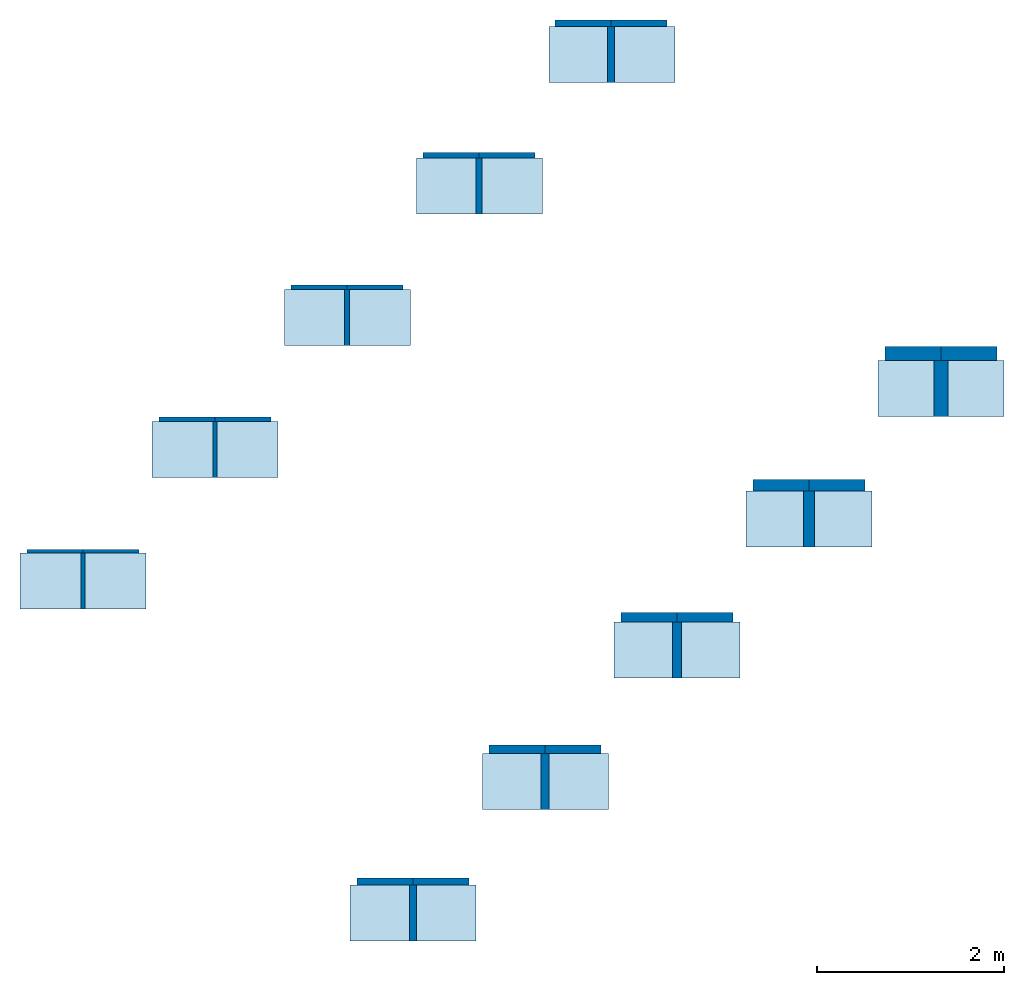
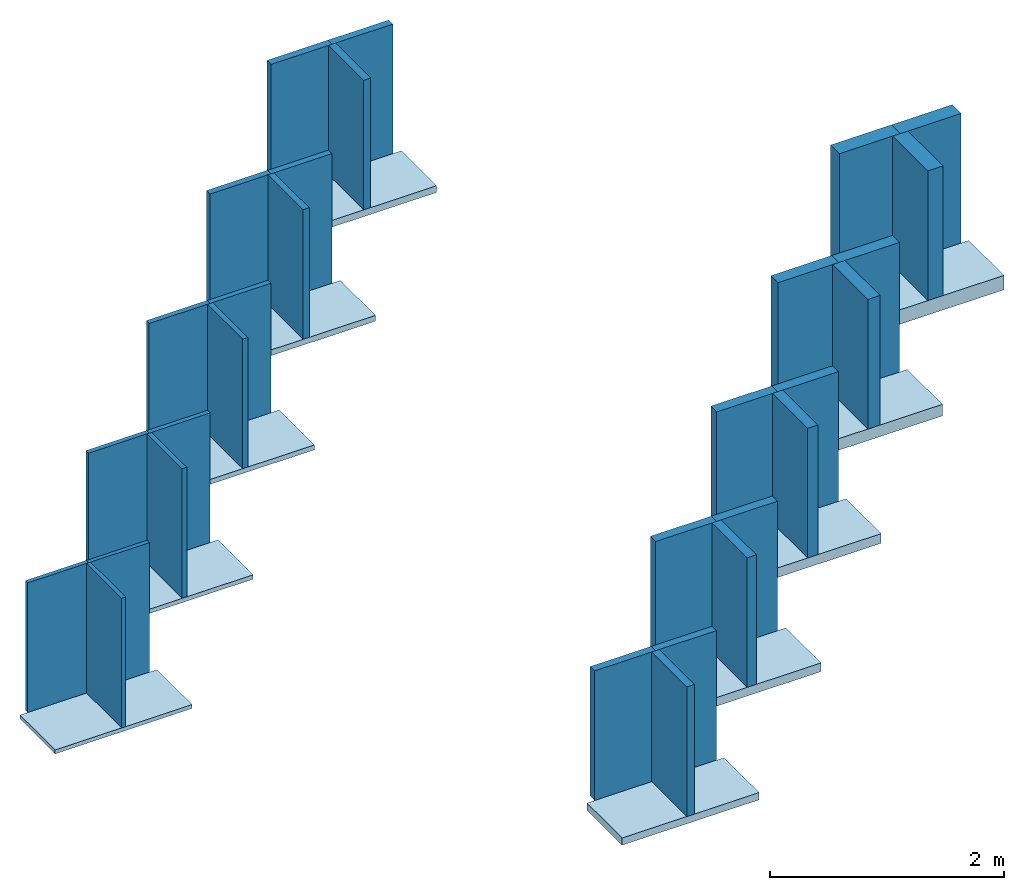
# One storey: 30 walls, 10 slabs.
"""IFC2X3 building model written with IfcOpenShell, lengths in millimetres."""

from ifc_helpers import new_model, entity, si_unit, converted_unit, derived_unit, direction, frame, frame_2d, origin, origin_2d_with_axis, place, context, subcontext, project, spatial, rectangle, extrude, material, layer, layer_set, layer_usage, type_object, element, save


model = new_model("IFC2X3")

# Units and contexts
model_context = context("Model", 3, precision=0.01, world=origin(), true_north=direction((6.12303176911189e-17, 1.0)))
context_of_model = context(None, 3, precision=0.01, world=origin(), true_north=direction((6.12303176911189e-17, 1.0)))
body_context = subcontext(model_context, "Body", "Model", "MODEL_VIEW")
ifc_project = project(units=[si_unit("LENGTHUNIT", "METRE", prefix="MILLI"), si_unit("AREAUNIT", "SQUARE_METRE"), si_unit("VOLUMEUNIT", "CUBIC_METRE"), converted_unit("PLANEANGLEUNIT", "DEGREE", entity("IfcRatioMeasure", 0.0174532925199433), si_unit("PLANEANGLEUNIT", "RADIAN"), dimensions=[0, 0, 0, 0, 0, 0, 0]), si_unit("MASSUNIT", "GRAM", prefix="KILO"), derived_unit("MASSDENSITYUNIT", [(si_unit("MASSUNIT", "GRAM", prefix="KILO"), 1), (si_unit("LENGTHUNIT", "METRE"), -3)]), derived_unit("MOMENTOFINERTIAUNIT", [(si_unit("LENGTHUNIT", "METRE"), 4)]), si_unit("TIMEUNIT", "SECOND"), si_unit("FREQUENCYUNIT", "HERTZ"), si_unit("THERMODYNAMICTEMPERATUREUNIT", "DEGREE_CELSIUS"), derived_unit("THERMALTRANSMITTANCEUNIT", [(si_unit("MASSUNIT", "GRAM", prefix="KILO"), 1), (si_unit("THERMODYNAMICTEMPERATUREUNIT", "KELVIN"), -1), (si_unit("TIMEUNIT", "SECOND"), -3)]), derived_unit("VOLUMETRICFLOWRATEUNIT", [(si_unit("LENGTHUNIT", "METRE"), 3), (si_unit("TIMEUNIT", "SECOND"), -1)]), si_unit("ELECTRICCURRENTUNIT", "AMPERE"), si_unit("ELECTRICVOLTAGEUNIT", "VOLT"), si_unit("POWERUNIT", "WATT"), si_unit("FORCEUNIT", "NEWTON", prefix="KILO"), si_unit("ILLUMINANCEUNIT", "LUX"), si_unit("LUMINOUSFLUXUNIT", "LUMEN"), si_unit("LUMINOUSINTENSITYUNIT", "CANDELA"), derived_unit("USERDEFINED", [(si_unit("MASSUNIT", "GRAM", prefix="KILO"), -1), (si_unit("LENGTHUNIT", "METRE"), -2), (si_unit("TIMEUNIT", "SECOND"), 3), (si_unit("LUMINOUSFLUXUNIT", "LUMEN"), 1)]), derived_unit("LINEARVELOCITYUNIT", [(si_unit("LENGTHUNIT", "METRE"), 1), (si_unit("TIMEUNIT", "SECOND"), -1)]), si_unit("PRESSUREUNIT", "PASCAL"), derived_unit("USERDEFINED", [(si_unit("LENGTHUNIT", "METRE"), -2), (si_unit("MASSUNIT", "GRAM", prefix="KILO"), 1), (si_unit("TIMEUNIT", "SECOND"), -2)]), derived_unit("LINEARFORCEUNIT", [(si_unit("MASSUNIT", "GRAM", prefix="KILO"), 1), (si_unit("LENGTHUNIT", "METRE"), 1), (si_unit("TIMEUNIT", "SECOND"), -2), (si_unit("LENGTHUNIT", "METRE"), -1)]), derived_unit("PLANARFORCEUNIT", [(si_unit("MASSUNIT", "GRAM", prefix="KILO"), 1), (si_unit("LENGTHUNIT", "METRE"), 1), (si_unit("TIMEUNIT", "SECOND"), -2), (si_unit("LENGTHUNIT", "METRE"), -2)])], contexts=[model_context, context_of_model])

# Site, building, storey
site_placement = place(None, origin())
site = spatial("IfcSite", under=ifc_project, at=site_placement, Name="Default", CompositionType="ELEMENT")
building_placement = place(site_placement, origin())
building = spatial("IfcBuilding", under=site, at=building_placement, CompositionType="ELEMENT")
storey_placement = place(building_placement, origin())
storey = spatial("IfcBuildingStorey", under=building, at=storey_placement, Name="Begane grond", CompositionType="ELEMENT", Elevation=0.0)

# Slabs
ifc_material = material(Name="Knauf Insulation_Ecose® glaswol Acoustifit")
ifc_layer_1 = layer(ifc_material, 40.0)
ifc_layer_set_1 = layer_set([ifc_layer_1], Name="Floor:NLRS_23_FL_Acoustifit_40x600x1350mm")
ifc_layer_usage_1 = layer_usage(ifc_layer_set_1, "AXIS3", "POSITIVE", 0.0)
slab_type_1 = type_object("IfcSlabType", Name="Floor:NLRS_23_FL_Acoustifit_40x600x1350mm", PredefinedType="FLOOR", material=ifc_layer_set_1)
slab_1_placement = place(storey_placement, origin())
element("IfcSlab", 1, at=slab_1_placement, inside=storey, type_object=slab_type_1, material=ifc_layer_usage_1, Name="Floor:NLRS_23_FL_Acoustifit_40x600x1350mm:3702", ObjectType="Floor:NLRS_23_FL_Acoustifit_40x600x1350mm", PredefinedType="FLOOR", context=body_context, shape_type="SweptSolid", body=[
    extrude(rectangle(XDim=599.999999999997, YDim=1350.0, at=frame_2d((1.4210854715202e-13, 0.0), x_axis=(1.0, 0.0))), frame((1103.11720698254, 2042.84289276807, 0.0), z_axis=(0.0, 0.0, -1.0), x_axis=(0.0, 1.0, 0.0)), (0.0, 0.0, 1.0), 40.0),
])
ifc_layer_2 = layer(ifc_material, 45.0)
ifc_layer_set_2 = layer_set([ifc_layer_2], Name="Floor:NLRS_23_FL_Acoustifit_45x600x1350mm")
ifc_layer_usage_2 = layer_usage(ifc_layer_set_2, "AXIS3", "POSITIVE", 0.0)
slab_type_2 = type_object("IfcSlabType", Name="Floor:NLRS_23_FL_Acoustifit_45x600x1350mm", PredefinedType="FLOOR", material=ifc_layer_set_2)
slab_2_placement = place(storey_placement, origin())
element("IfcSlab", 2, at=slab_2_placement, inside=storey, type_object=slab_type_2, material=ifc_layer_usage_2, Name="Floor:NLRS_23_FL_Acoustifit_45x600x1350mm:5869", ObjectType="Floor:NLRS_23_FL_Acoustifit_45x600x1350mm", PredefinedType="FLOOR", context=body_context, shape_type="SweptSolid", body=[
    extrude(rectangle(XDim=599.999999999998, YDim=1350.0, at=frame_2d((0.0, -1.13686837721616e-13), x_axis=(1.0, 0.0))), frame((2519.83076935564, 3454.55645514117, 0.0), z_axis=(0.0, 0.0, -1.0), x_axis=(0.0, 1.0, 0.0)), (0.0, 0.0, 1.0), 45.0),
])
ifc_layer_3 = layer(ifc_material, 50.0)
ifc_layer_set_3 = layer_set([ifc_layer_3], Name="Floor:NLRS_23_FL_Acoustifit_50x600x1350mm")
ifc_layer_usage_3 = layer_usage(ifc_layer_set_3, "AXIS3", "POSITIVE", 0.0)
slab_type_3 = type_object("IfcSlabType", Name="Floor:NLRS_23_FL_Acoustifit_50x600x1350mm", PredefinedType="FLOOR", material=ifc_layer_set_3)
slab_3_placement = place(storey_placement, origin())
element("IfcSlab", 3, at=slab_3_placement, inside=storey, type_object=slab_type_3, material=ifc_layer_usage_3, Name="Floor:NLRS_23_FL_Acoustifit_50x600x1350mm:5943", ObjectType="Floor:NLRS_23_FL_Acoustifit_50x600x1350mm", PredefinedType="FLOOR", context=body_context, shape_type="SweptSolid", body=[
    extrude(rectangle(XDim=599.999999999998, YDim=1350.0, at=frame_2d((0.0, 5.6843418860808e-13), x_axis=(1.0, 0.0))), frame((3936.54433172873, 4866.27001751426, 0.0), z_axis=(0.0, 0.0, -1.0), x_axis=(0.0, 1.0, 0.0)), (0.0, 0.0, 1.0), 50.0),
])
ifc_layer_4 = layer(ifc_material, 60.0)
ifc_layer_set_4 = layer_set([ifc_layer_4], Name="Floor:NLRS_23_FL_Acoustifit_60x600x1350mm")
ifc_layer_usage_4 = layer_usage(ifc_layer_set_4, "AXIS3", "POSITIVE", 0.0)
slab_type_4 = type_object("IfcSlabType", Name="Floor:NLRS_23_FL_Acoustifit_60x600x1350mm", PredefinedType="FLOOR", material=ifc_layer_set_4)
slab_4_placement = place(storey_placement, origin())
element("IfcSlab", 4, at=slab_4_placement, inside=storey, type_object=slab_type_4, material=ifc_layer_usage_4, Name="Floor:NLRS_23_FL_Acoustifit_60x600x1350mm:5952", ObjectType="Floor:NLRS_23_FL_Acoustifit_60x600x1350mm", PredefinedType="FLOOR", context=body_context, shape_type="SweptSolid", body=[
    extrude(rectangle(XDim=599.999999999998, YDim=1350.0, at=origin_2d_with_axis()), frame((5353.25789410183, 6275.48357988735, 0.0), z_axis=(0.0, 0.0, -1.0), x_axis=(0.0, 1.0, 0.0)), (0.0, 0.0, 1.0), 60.0),
])
ifc_layer_5 = layer(ifc_material, 70.0)
ifc_layer_set_5 = layer_set([ifc_layer_5], Name="Floor:NLRS_23_FL_Acoustifit_70x600x1350mm")
ifc_layer_usage_5 = layer_usage(ifc_layer_set_5, "AXIS3", "POSITIVE", 0.0)
slab_type_5 = type_object("IfcSlabType", Name="Floor:NLRS_23_FL_Acoustifit_70x600x1350mm", PredefinedType="FLOOR", material=ifc_layer_set_5)
slab_5_placement = place(storey_placement, origin())
element("IfcSlab", 5, at=slab_5_placement, inside=storey, type_object=slab_type_5, material=ifc_layer_usage_5, Name="Floor:NLRS_23_FL_Acoustifit_70x600x1350mm:5961", ObjectType="Floor:NLRS_23_FL_Acoustifit_70x600x1350mm", PredefinedType="FLOOR", context=body_context, shape_type="SweptSolid", body=[
    extrude(rectangle(XDim=599.999999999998, YDim=1350.0, at=frame_2d((0.0, 5.6843418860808e-13), x_axis=(1.0, 0.0))), frame((6769.97145647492, 7684.69714226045, 0.0), z_axis=(0.0, 0.0, -1.0), x_axis=(0.0, 1.0, 0.0)), (0.0, 0.0, 1.0), 70.0),
])
ifc_layer_6 = layer(ifc_material, 75.0)
ifc_layer_set_6 = layer_set([ifc_layer_6], Name="Floor:NLRS_23_FL_Acoustifit_75x600x1350mm")
ifc_layer_usage_6 = layer_usage(ifc_layer_set_6, "AXIS3", "POSITIVE", 0.0)
slab_type_6 = type_object("IfcSlabType", Name="Floor:NLRS_23_FL_Acoustifit_75x600x1350mm", PredefinedType="FLOOR", material=ifc_layer_set_6)
slab_6_placement = place(storey_placement, origin())
element("IfcSlab", 6, at=slab_6_placement, inside=storey, type_object=slab_type_6, material=ifc_layer_usage_6, Name="Floor:NLRS_23_FL_Acoustifit_75x600x1350mm:6406", ObjectType="Floor:NLRS_23_FL_Acoustifit_75x600x1350mm", PredefinedType="FLOOR", context=body_context, shape_type="SweptSolid", body=[
    extrude(rectangle(XDim=599.999999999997, YDim=1350.0, at=frame_2d((-1.4210854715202e-13, 0.0), x_axis=(1.0, 0.0))), frame((4638.65111291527, -1510.19101316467, 0.0), z_axis=(0.0, 0.0, -1.0), x_axis=(0.0, 1.0, 0.0)), (0.0, 0.0, 1.0), 75.0),
])
ifc_layer_7 = layer(ifc_material, 90.0)
ifc_layer_set_7 = layer_set([ifc_layer_7], Name="Floor:NLRS_23_FL_Acoustifit_90x600x1350mm")
ifc_layer_usage_7 = layer_usage(ifc_layer_set_7, "AXIS3", "POSITIVE", 0.0)
slab_type_7 = type_object("IfcSlabType", Name="Floor:NLRS_23_FL_Acoustifit_90x600x1350mm", PredefinedType="FLOOR", material=ifc_layer_set_7)
slab_7_placement = place(storey_placement, origin())
element("IfcSlab", 7, at=slab_7_placement, inside=storey, type_object=slab_type_7, material=ifc_layer_usage_7, Name="Floor:NLRS_23_FL_Acoustifit_90x600x1350mm:6471", ObjectType="Floor:NLRS_23_FL_Acoustifit_90x600x1350mm", PredefinedType="FLOOR", context=body_context, shape_type="SweptSolid", body=[
    extrude(rectangle(XDim=599.999999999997, YDim=1350.0, at=frame_2d((2.8421709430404e-14, 0.0), x_axis=(1.0, 0.0))), frame((6060.36467528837, -103.477450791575, 0.0), z_axis=(0.0, 0.0, -1.0), x_axis=(0.0, 1.0, 0.0)), (0.0, 0.0, 1.0), 90.0),
])
ifc_layer_8 = layer(ifc_material, 100.0)
ifc_layer_set_8 = layer_set([ifc_layer_8], Name="Floor:NLRS_23_FL_Acoustifit_100x600x1350mm")
ifc_layer_usage_8 = layer_usage(ifc_layer_set_8, "AXIS3", "POSITIVE", 0.0)
slab_type_8 = type_object("IfcSlabType", Name="Floor:NLRS_23_FL_Acoustifit_100x600x1350mm", PredefinedType="FLOOR", material=ifc_layer_set_8)
slab_8_placement = place(storey_placement, origin())
element("IfcSlab", 8, at=slab_8_placement, inside=storey, type_object=slab_type_8, material=ifc_layer_usage_8, Name="Floor:NLRS_23_FL_Acoustifit_100x600x1350mm:6533", ObjectType="Floor:NLRS_23_FL_Acoustifit_100x600x1350mm", PredefinedType="FLOOR", context=body_context, shape_type="SweptSolid", body=[
    extrude(rectangle(XDim=599.999999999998, YDim=1350.0, at=frame_2d((0.0, 1.13686837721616e-12), x_axis=(1.0, 0.0))), frame((7467.07823766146, 1305.73611158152, 0.0), z_axis=(0.0, 0.0, -1.0), x_axis=(0.0, 1.0, 0.0)), (0.0, 0.0, 1.0), 100.0),
])
ifc_layer_9 = layer(ifc_material, 120.0)
ifc_layer_set_9 = layer_set([ifc_layer_9], Name="Floor:NLRS_23_FL_Acoustifit_120x600x1350mm")
ifc_layer_usage_9 = layer_usage(ifc_layer_set_9, "AXIS3", "POSITIVE", 0.0)
slab_type_9 = type_object("IfcSlabType", Name="Floor:NLRS_23_FL_Acoustifit_120x600x1350mm", PredefinedType="FLOOR", material=ifc_layer_set_9)
slab_9_placement = place(storey_placement, origin())
element("IfcSlab", 9, at=slab_9_placement, inside=storey, type_object=slab_type_9, material=ifc_layer_usage_9, Name="Floor:NLRS_23_FL_Acoustifit_120x600x1350mm:6542", ObjectType="Floor:NLRS_23_FL_Acoustifit_120x600x1350mm", PredefinedType="FLOOR", context=body_context, shape_type="SweptSolid", body=[
    extrude(rectangle(XDim=599.999999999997, YDim=1350.0, at=origin_2d_with_axis()), frame((8881.29180003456, 2709.94967395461, 0.0), z_axis=(0.0, 0.0, -1.0), x_axis=(0.0, 1.0, 0.0)), (0.0, 0.0, 1.0), 120.0),
])
ifc_layer_10 = layer(ifc_material, 150.0)
ifc_layer_set_10 = layer_set([ifc_layer_10], Name="Floor:NLRS_23_FL_Acoustifit_150x600x1350mm")
ifc_layer_usage_10 = layer_usage(ifc_layer_set_10, "AXIS3", "POSITIVE", 0.0)
slab_type_10 = type_object("IfcSlabType", Name="Floor:NLRS_23_FL_Acoustifit_150x600x1350mm", PredefinedType="FLOOR", material=ifc_layer_set_10)
slab_10_placement = place(storey_placement, origin())
element("IfcSlab", 10, at=slab_10_placement, inside=storey, type_object=slab_type_10, material=ifc_layer_usage_10, Name="Floor:NLRS_23_FL_Acoustifit_150x600x1350mm:6551", ObjectType="Floor:NLRS_23_FL_Acoustifit_150x600x1350mm", PredefinedType="FLOOR", context=body_context, shape_type="SweptSolid", body=[
    extrude(rectangle(XDim=599.999999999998, YDim=1350.0, at=frame_2d((0.0, 1.08002495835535e-12), x_axis=(1.0, 0.0))), frame((10295.5053624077, 4109.1632363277, 0.0), z_axis=(0.0, 0.0, -1.0), x_axis=(0.0, 1.0, 0.0)), (0.0, 0.0, 1.0), 150.0),
])

# Walls
ifc_layer_11 = layer(ifc_material, 40.0)
ifc_layer_set_11 = layer_set([ifc_layer_11], Name="Basic Wall:NLRS_21_WA__Acoustifit_40x600x1350mm")
ifc_layer_usage_11 = layer_usage(ifc_layer_set_11, "AXIS2", "NEGATIVE", 20.0)
wall_type_1 = type_object("IfcWallType", Name="Basic Wall:NLRS_21_WA__Acoustifit_40x600x1350mm", PredefinedType="STANDARD", material=ifc_layer_set_11)
wall_1_placement = place(storey_placement, frame((503.117206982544, 2362.84289276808, 0.0)))
element("IfcWallStandardCase", 11, at=wall_1_placement, inside=storey, type_object=wall_type_1, material=ifc_layer_usage_11, Name="Basic Wall:NLRS_21_WA__Acoustifit_40x600x1350mm:2453", ObjectType="Basic Wall:NLRS_21_WA__Acoustifit_40x600x1350mm", context=body_context, shape_type="SweptSolid", body=[
    extrude(rectangle(XDim=600.0, YDim=40.0000000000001, at=frame_2d((300.0, 0.0), x_axis=(-1.0, 0.0))), origin(), (0.0, 0.0, 1.0), 1350.0),
])
ifc_layer_usage_12 = layer_usage(ifc_layer_set_11, "AXIS2", "NEGATIVE", 20.0)
wall_2_placement = place(storey_placement, frame((1103.11720698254, 2342.84289276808, 0.0), z_axis=(0.0, 0.0, 1.0), x_axis=(0.0, -1.0, 0.0)))
element("IfcWallStandardCase", 12, at=wall_2_placement, inside=storey, type_object=wall_type_1, material=ifc_layer_usage_12, Name="Basic Wall:NLRS_21_WA__Acoustifit_40x600x1350mm:2588", ObjectType="Basic Wall:NLRS_21_WA__Acoustifit_40x600x1350mm", context=body_context, shape_type="SweptSolid", body=[
    extrude(rectangle(XDim=600.0, YDim=40.0000000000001, at=frame_2d((300.0, -1.4210854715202e-14), x_axis=(-1.0, 0.0))), origin(), (0.0, 0.0, 1.0), 1350.0),
])
ifc_layer_usage_13 = layer_usage(ifc_layer_set_11, "AXIS2", "NEGATIVE", 20.0)
wall_3_placement = place(storey_placement, frame((1103.11720698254, 2362.84289276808, 0.0)))
element("IfcWallStandardCase", 13, at=wall_3_placement, inside=storey, type_object=wall_type_1, material=ifc_layer_usage_13, Name="Basic Wall:NLRS_21_WA__Acoustifit_40x600x1350mm:4073", ObjectType="Basic Wall:NLRS_21_WA__Acoustifit_40x600x1350mm", context=body_context, shape_type="SweptSolid", body=[
    extrude(rectangle(XDim=600.0, YDim=40.0000000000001, at=frame_2d((300.0, 0.0), x_axis=(-1.0, 0.0))), origin(), (0.0, 0.0, 1.0), 1350.0),
])
ifc_layer_12 = layer(ifc_material, 45.0)
ifc_layer_set_12 = layer_set([ifc_layer_12], Name="Basic Wall:NLRS_21_WA__Acoustifit_45x600x1350mm")
ifc_layer_usage_14 = layer_usage(ifc_layer_set_12, "AXIS2", "NEGATIVE", 22.5)
wall_type_2 = type_object("IfcWallType", Name="Basic Wall:NLRS_21_WA__Acoustifit_45x600x1350mm", PredefinedType="STANDARD", material=ifc_layer_set_12)
wall_4_placement = place(storey_placement, frame((1917.33076935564, 3777.05645514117, 0.0)))
element("IfcWallStandardCase", 14, at=wall_4_placement, inside=storey, type_object=wall_type_2, material=ifc_layer_usage_14, Name="Basic Wall:NLRS_21_WA__Acoustifit_45x600x1350mm:4397", ObjectType="Basic Wall:NLRS_21_WA__Acoustifit_45x600x1350mm", context=body_context, shape_type="SweptSolid", body=[
    extrude(rectangle(XDim=600.0, YDim=44.9999999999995, at=frame_2d((300.0, -1.35003119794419e-13), x_axis=(-1.0, 0.0))), origin(), (0.0, 0.0, 1.0), 1350.0),
])
ifc_layer_usage_15 = layer_usage(ifc_layer_set_12, "AXIS2", "NEGATIVE", 22.5)
wall_5_placement = place(storey_placement, frame((2517.33076935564, 3754.55645514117, 0.0), z_axis=(0.0, 0.0, 1.0), x_axis=(0.0, -1.0, 0.0)))
element("IfcWallStandardCase", 15, at=wall_5_placement, inside=storey, type_object=wall_type_2, material=ifc_layer_usage_15, Name="Basic Wall:NLRS_21_WA__Acoustifit_45x600x1350mm:4398", ObjectType="Basic Wall:NLRS_21_WA__Acoustifit_45x600x1350mm", context=body_context, shape_type="SweptSolid", body=[
    extrude(rectangle(XDim=600.0, YDim=44.9999999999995, at=frame_2d((300.0, -6.75015598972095e-14), x_axis=(-1.0, 0.0))), origin(), (0.0, 0.0, 1.0), 1350.0),
])
ifc_layer_usage_16 = layer_usage(ifc_layer_set_12, "AXIS2", "NEGATIVE", 22.5)
wall_6_placement = place(storey_placement, frame((2517.33076935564, 3777.05645514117, 0.0)))
element("IfcWallStandardCase", 16, at=wall_6_placement, inside=storey, type_object=wall_type_2, material=ifc_layer_usage_16, Name="Basic Wall:NLRS_21_WA__Acoustifit_45x600x1350mm:4400", ObjectType="Basic Wall:NLRS_21_WA__Acoustifit_45x600x1350mm", context=body_context, shape_type="SweptSolid", body=[
    extrude(rectangle(XDim=600.0, YDim=44.9999999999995, at=frame_2d((300.0, -1.35003119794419e-13), x_axis=(-1.0, 0.0))), origin(), (0.0, 0.0, 1.0), 1350.0),
])
ifc_layer_13 = layer(ifc_material, 50.0)
ifc_layer_set_13 = layer_set([ifc_layer_13], Name="Basic Wall:NLRS_21_WA__Acoustifit_50x600x1350mm")
ifc_layer_usage_17 = layer_usage(ifc_layer_set_13, "AXIS2", "NEGATIVE", 25.0)
wall_type_3 = type_object("IfcWallType", Name="Basic Wall:NLRS_21_WA__Acoustifit_50x600x1350mm", PredefinedType="STANDARD", material=ifc_layer_set_13)
wall_7_placement = place(storey_placement, frame((3331.54433172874, 5191.27001751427, 0.0)))
element("IfcWallStandardCase", 17, at=wall_7_placement, inside=storey, type_object=wall_type_3, material=ifc_layer_usage_17, Name="Basic Wall:NLRS_21_WA__Acoustifit_50x600x1350mm:4441", ObjectType="Basic Wall:NLRS_21_WA__Acoustifit_50x600x1350mm", context=body_context, shape_type="SweptSolid", body=[
    extrude(rectangle(XDim=600.0, YDim=49.9999999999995, at=frame_2d((300.0, -1.35003119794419e-13), x_axis=(-1.0, 0.0))), origin(), (0.0, 0.0, 1.0), 1350.0),
])
ifc_layer_usage_18 = layer_usage(ifc_layer_set_13, "AXIS2", "NEGATIVE", 25.0)
wall_8_placement = place(storey_placement, frame((3931.54433172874, 5166.27001751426, 0.0), z_axis=(0.0, 0.0, 1.0), x_axis=(0.0, -1.0, 0.0)))
element("IfcWallStandardCase", 18, at=wall_8_placement, inside=storey, type_object=wall_type_3, material=ifc_layer_usage_18, Name="Basic Wall:NLRS_21_WA__Acoustifit_50x600x1350mm:4442", ObjectType="Basic Wall:NLRS_21_WA__Acoustifit_50x600x1350mm", context=body_context, shape_type="SweptSolid", body=[
    extrude(rectangle(XDim=600.0, YDim=50.0000000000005, at=frame_2d((300.0, -6.75015598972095e-14), x_axis=(-1.0, 0.0))), origin(), (0.0, 0.0, 1.0), 1350.0),
])
ifc_layer_usage_19 = layer_usage(ifc_layer_set_13, "AXIS2", "NEGATIVE", 25.0)
wall_9_placement = place(storey_placement, frame((3931.54433172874, 5191.27001751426, 0.0)))
element("IfcWallStandardCase", 19, at=wall_9_placement, inside=storey, type_object=wall_type_3, material=ifc_layer_usage_19, Name="Basic Wall:NLRS_21_WA__Acoustifit_50x600x1350mm:4443", ObjectType="Basic Wall:NLRS_21_WA__Acoustifit_50x600x1350mm", context=body_context, shape_type="SweptSolid", body=[
    extrude(rectangle(XDim=600.0, YDim=49.9999999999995, at=frame_2d((300.0, -1.35003119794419e-13), x_axis=(-1.0, 0.0))), origin(), (0.0, 0.0, 1.0), 1350.0),
])
ifc_layer_14 = layer(ifc_material, 60.0)
ifc_layer_set_14 = layer_set([ifc_layer_14], Name="Basic Wall:NLRS_21_WA__Acoustifit_60x600x1350mm")
ifc_layer_usage_20 = layer_usage(ifc_layer_set_14, "AXIS2", "NEGATIVE", 30.0)
wall_type_4 = type_object("IfcWallType", Name="Basic Wall:NLRS_21_WA__Acoustifit_60x600x1350mm", PredefinedType="STANDARD", material=ifc_layer_set_14)
wall_10_placement = place(storey_placement, frame((4745.75789410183, 6605.48357988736, 0.0)))
element("IfcWallStandardCase", 20, at=wall_10_placement, inside=storey, type_object=wall_type_4, material=ifc_layer_usage_20, Name="Basic Wall:NLRS_21_WA__Acoustifit_60x600x1350mm:4592", ObjectType="Basic Wall:NLRS_21_WA__Acoustifit_60x600x1350mm", context=body_context, shape_type="SweptSolid", body=[
    extrude(rectangle(XDim=600.0, YDim=59.9999999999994, at=frame_2d((300.0, -1.35003119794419e-13), x_axis=(-1.0, 0.0))), origin(), (0.0, 0.0, 1.0), 1350.0),
])
ifc_layer_usage_21 = layer_usage(ifc_layer_set_14, "AXIS2", "NEGATIVE", 30.0)
wall_11_placement = place(storey_placement, frame((5345.75789410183, 6575.48357988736, 0.0), z_axis=(0.0, 0.0, 1.0), x_axis=(0.0, -1.0, 0.0)))
element("IfcWallStandardCase", 21, at=wall_11_placement, inside=storey, type_object=wall_type_4, material=ifc_layer_usage_21, Name="Basic Wall:NLRS_21_WA__Acoustifit_60x600x1350mm:4593", ObjectType="Basic Wall:NLRS_21_WA__Acoustifit_60x600x1350mm", context=body_context, shape_type="SweptSolid", body=[
    extrude(rectangle(XDim=600.0, YDim=59.9999999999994, at=frame_2d((300.0, -6.75015598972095e-14), x_axis=(-1.0, 0.0))), origin(), (0.0, 0.0, 1.0), 1350.0),
])
ifc_layer_usage_22 = layer_usage(ifc_layer_set_14, "AXIS2", "NEGATIVE", 30.0)
wall_12_placement = place(storey_placement, frame((5345.75789410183, 6605.48357988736, 0.0)))
element("IfcWallStandardCase", 22, at=wall_12_placement, inside=storey, type_object=wall_type_4, material=ifc_layer_usage_22, Name="Basic Wall:NLRS_21_WA__Acoustifit_60x600x1350mm:4594", ObjectType="Basic Wall:NLRS_21_WA__Acoustifit_60x600x1350mm", context=body_context, shape_type="SweptSolid", body=[
    extrude(rectangle(XDim=599.999999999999, YDim=59.9999999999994, at=frame_2d((299.999999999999, -1.35003119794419e-13), x_axis=(-1.0, 0.0))), origin(), (0.0, 0.0, 1.0), 1350.0),
])
ifc_layer_15 = layer(ifc_material, 70.0)
ifc_layer_set_15 = layer_set([ifc_layer_15], Name="Basic Wall:NLRS_21_WA__Acoustifit_70x600x1350mm")
ifc_layer_usage_23 = layer_usage(ifc_layer_set_15, "AXIS2", "NEGATIVE", 35.0)
wall_type_5 = type_object("IfcWallType", Name="Basic Wall:NLRS_21_WA__Acoustifit_70x600x1350mm", PredefinedType="STANDARD", material=ifc_layer_set_15)
wall_13_placement = place(storey_placement, frame((6159.97145647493, 8019.69714226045, 0.0)))
element("IfcWallStandardCase", 23, at=wall_13_placement, inside=storey, type_object=wall_type_5, material=ifc_layer_usage_23, Name="Basic Wall:NLRS_21_WA__Acoustifit_70x600x1350mm:4655", ObjectType="Basic Wall:NLRS_21_WA__Acoustifit_70x600x1350mm", context=body_context, shape_type="SweptSolid", body=[
    extrude(rectangle(XDim=599.999999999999, YDim=69.9999999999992, at=frame_2d((299.999999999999, -1.35003119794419e-13), x_axis=(-1.0, 0.0))), origin(), (0.0, 0.0, 1.0), 1350.0),
])
ifc_layer_usage_24 = layer_usage(ifc_layer_set_15, "AXIS2", "NEGATIVE", 35.0)
wall_14_placement = place(storey_placement, frame((6759.97145647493, 7984.69714226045, 0.0), z_axis=(0.0, 0.0, 1.0), x_axis=(0.0, -1.0, 0.0)))
element("IfcWallStandardCase", 24, at=wall_14_placement, inside=storey, type_object=wall_type_5, material=ifc_layer_usage_24, Name="Basic Wall:NLRS_21_WA__Acoustifit_70x600x1350mm:4656", ObjectType="Basic Wall:NLRS_21_WA__Acoustifit_70x600x1350mm", context=body_context, shape_type="SweptSolid", body=[
    extrude(rectangle(XDim=600.0, YDim=69.9999999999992, at=frame_2d((300.0, -6.75015598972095e-14), x_axis=(-1.0, 0.0))), origin(), (0.0, 0.0, 1.0), 1350.0),
])
ifc_layer_usage_25 = layer_usage(ifc_layer_set_15, "AXIS2", "NEGATIVE", 35.0)
wall_15_placement = place(storey_placement, frame((6759.97145647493, 8019.69714226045, 0.0)))
element("IfcWallStandardCase", 25, at=wall_15_placement, inside=storey, type_object=wall_type_5, material=ifc_layer_usage_25, Name="Basic Wall:NLRS_21_WA__Acoustifit_70x600x1350mm:4657", ObjectType="Basic Wall:NLRS_21_WA__Acoustifit_70x600x1350mm", context=body_context, shape_type="SweptSolid", body=[
    extrude(rectangle(XDim=599.999999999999, YDim=69.9999999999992, at=frame_2d((299.999999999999, -1.35003119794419e-13), x_axis=(-1.0, 0.0))), origin(), (0.0, 0.0, 1.0), 1350.0),
])
ifc_layer_16 = layer(ifc_material, 75.0)
ifc_layer_set_16 = layer_set([ifc_layer_16], Name="Basic Wall:NLRS_21_WA__Acoustifit_75x600x1350mm")
ifc_layer_usage_26 = layer_usage(ifc_layer_set_16, "AXIS2", "NEGATIVE", 37.5)
wall_type_6 = type_object("IfcWallType", Name="Basic Wall:NLRS_21_WA__Acoustifit_75x600x1350mm", PredefinedType="STANDARD", material=ifc_layer_set_16)
wall_16_placement = place(storey_placement, frame((4038.65111291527, -1172.69101316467, 0.0)))
element("IfcWallStandardCase", 26, at=wall_16_placement, inside=storey, type_object=wall_type_6, material=ifc_layer_usage_26, Name="Basic Wall:NLRS_21_WA__Acoustifit_75x600x1350mm:4721", ObjectType="Basic Wall:NLRS_21_WA__Acoustifit_75x600x1350mm", context=body_context, shape_type="SweptSolid", body=[
    extrude(rectangle(XDim=599.999999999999, YDim=75.0, at=frame_2d((300.0, 0.0), x_axis=(-1.0, 0.0))), origin(), (0.0, 0.0, 1.0), 1350.0),
])
ifc_layer_usage_27 = layer_usage(ifc_layer_set_16, "AXIS2", "NEGATIVE", 37.5)
wall_17_placement = place(storey_placement, frame((4638.65111291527, -1210.19101316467, 0.0), z_axis=(0.0, 0.0, 1.0), x_axis=(0.0, -1.0, 0.0)))
element("IfcWallStandardCase", 27, at=wall_17_placement, inside=storey, type_object=wall_type_6, material=ifc_layer_usage_27, Name="Basic Wall:NLRS_21_WA__Acoustifit_75x600x1350mm:4722", ObjectType="Basic Wall:NLRS_21_WA__Acoustifit_75x600x1350mm", context=body_context, shape_type="SweptSolid", body=[
    extrude(rectangle(XDim=600.0, YDim=75.0000000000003, at=frame_2d((300.0, -6.75015598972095e-14), x_axis=(-1.0, 0.0))), origin(), (0.0, 0.0, 1.0), 1350.0),
])
ifc_layer_usage_28 = layer_usage(ifc_layer_set_16, "AXIS2", "NEGATIVE", 37.5)
wall_18_placement = place(storey_placement, frame((4638.65111291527, -1172.69101316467, 0.0)))
element("IfcWallStandardCase", 28, at=wall_18_placement, inside=storey, type_object=wall_type_6, material=ifc_layer_usage_28, Name="Basic Wall:NLRS_21_WA__Acoustifit_75x600x1350mm:4724", ObjectType="Basic Wall:NLRS_21_WA__Acoustifit_75x600x1350mm", context=body_context, shape_type="SweptSolid", body=[
    extrude(rectangle(XDim=600.0, YDim=75.0, at=frame_2d((300.0, 0.0), x_axis=(-1.0, 0.0))), origin(), (0.0, 0.0, 1.0), 1350.0),
])
ifc_layer_17 = layer(ifc_material, 90.0)
ifc_layer_set_17 = layer_set([ifc_layer_17], Name="Basic Wall:NLRS_21_WA__Acoustifit_90x600x1350mm")
ifc_layer_usage_29 = layer_usage(ifc_layer_set_17, "AXIS2", "NEGATIVE", 45.0)
wall_type_7 = type_object("IfcWallType", Name="Basic Wall:NLRS_21_WA__Acoustifit_90x600x1350mm", PredefinedType="STANDARD", material=ifc_layer_set_17)
wall_19_placement = place(storey_placement, frame((5452.86467528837, 241.522549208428, 0.0)))
element("IfcWallStandardCase", 29, at=wall_19_placement, inside=storey, type_object=wall_type_7, material=ifc_layer_usage_29, Name="Basic Wall:NLRS_21_WA__Acoustifit_90x600x1350mm:4725", ObjectType="Basic Wall:NLRS_21_WA__Acoustifit_90x600x1350mm", context=body_context, shape_type="SweptSolid", body=[
    extrude(rectangle(XDim=599.999999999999, YDim=90.0, at=frame_2d((299.999999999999, 0.0), x_axis=(-1.0, 0.0))), origin(), (0.0, 0.0, 1.0), 1350.0),
])
ifc_layer_usage_30 = layer_usage(ifc_layer_set_17, "AXIS2", "NEGATIVE", 45.0)
wall_20_placement = place(storey_placement, frame((6052.86467528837, 196.522549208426, 0.0), z_axis=(0.0, 0.0, 1.0), x_axis=(0.0, -1.0, 0.0)))
element("IfcWallStandardCase", 30, at=wall_20_placement, inside=storey, type_object=wall_type_7, material=ifc_layer_usage_30, Name="Basic Wall:NLRS_21_WA__Acoustifit_90x600x1350mm:4726", ObjectType="Basic Wall:NLRS_21_WA__Acoustifit_90x600x1350mm", context=body_context, shape_type="SweptSolid", body=[
    extrude(rectangle(XDim=600.0, YDim=89.999999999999, at=frame_2d((300.0, -6.75015598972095e-14), x_axis=(-1.0, 0.0))), origin(), (0.0, 0.0, 1.0), 1350.0),
])
ifc_layer_usage_31 = layer_usage(ifc_layer_set_17, "AXIS2", "NEGATIVE", 45.0)
wall_21_placement = place(storey_placement, frame((6052.86467528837, 241.522549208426, 0.0)))
element("IfcWallStandardCase", 31, at=wall_21_placement, inside=storey, type_object=wall_type_7, material=ifc_layer_usage_31, Name="Basic Wall:NLRS_21_WA__Acoustifit_90x600x1350mm:4727", ObjectType="Basic Wall:NLRS_21_WA__Acoustifit_90x600x1350mm", context=body_context, shape_type="SweptSolid", body=[
    extrude(rectangle(XDim=599.999999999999, YDim=90.0, at=frame_2d((299.999999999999, 0.0), x_axis=(-1.0, 0.0))), origin(), (0.0, 0.0, 1.0), 1350.0),
])
ifc_layer_18 = layer(ifc_material, 100.0)
ifc_layer_set_18 = layer_set([ifc_layer_18], Name="Basic Wall:NLRS_21_WA__Acoustifit_100x600x1350mm")
ifc_layer_usage_32 = layer_usage(ifc_layer_set_18, "AXIS2", "NEGATIVE", 50.0)
wall_type_8 = type_object("IfcWallType", Name="Basic Wall:NLRS_21_WA__Acoustifit_100x600x1350mm", PredefinedType="STANDARD", material=ifc_layer_set_18)
wall_22_placement = place(storey_placement, frame((6867.07823766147, 1655.73611158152, 0.0)))
element("IfcWallStandardCase", 32, at=wall_22_placement, inside=storey, type_object=wall_type_8, material=ifc_layer_usage_32, Name="Basic Wall:NLRS_21_WA__Acoustifit_100x600x1350mm:4728", ObjectType="Basic Wall:NLRS_21_WA__Acoustifit_100x600x1350mm", context=body_context, shape_type="SweptSolid", body=[
    extrude(rectangle(XDim=599.999999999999, YDim=100.0, at=frame_2d((299.999999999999, 0.0), x_axis=(-1.0, 0.0))), origin(), (0.0, 0.0, 1.0), 1350.0),
])
ifc_layer_usage_33 = layer_usage(ifc_layer_set_18, "AXIS2", "NEGATIVE", 50.0)
wall_23_placement = place(storey_placement, frame((7467.07823766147, 1605.73611158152, 0.0), z_axis=(0.0, 0.0, 1.0), x_axis=(0.0, -1.0, 0.0)))
element("IfcWallStandardCase", 33, at=wall_23_placement, inside=storey, type_object=wall_type_8, material=ifc_layer_usage_33, Name="Basic Wall:NLRS_21_WA__Acoustifit_100x600x1350mm:4729", ObjectType="Basic Wall:NLRS_21_WA__Acoustifit_100x600x1350mm", context=body_context, shape_type="SweptSolid", body=[
    extrude(rectangle(XDim=600.0, YDim=99.9999999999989, at=frame_2d((300.0, -6.75015598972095e-14), x_axis=(-1.0, 0.0))), origin(), (0.0, 0.0, 1.0), 1350.0),
])
ifc_layer_usage_34 = layer_usage(ifc_layer_set_18, "AXIS2", "NEGATIVE", 50.0)
wall_24_placement = place(storey_placement, frame((7467.07823766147, 1655.73611158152, 0.0)))
element("IfcWallStandardCase", 34, at=wall_24_placement, inside=storey, type_object=wall_type_8, material=ifc_layer_usage_34, Name="Basic Wall:NLRS_21_WA__Acoustifit_100x600x1350mm:4730", ObjectType="Basic Wall:NLRS_21_WA__Acoustifit_100x600x1350mm", context=body_context, shape_type="SweptSolid", body=[
    extrude(rectangle(XDim=599.999999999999, YDim=100.0, at=frame_2d((299.999999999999, 0.0), x_axis=(-1.0, 0.0))), origin(), (0.0, 0.0, 1.0), 1350.0),
])
ifc_layer_19 = layer(ifc_material, 120.0)
ifc_layer_set_19 = layer_set([ifc_layer_19], Name="Basic Wall:NLRS_21_WA__Acoustifit_120x600x1350mm")
ifc_layer_usage_35 = layer_usage(ifc_layer_set_19, "AXIS2", "NEGATIVE", 60.0)
wall_type_9 = type_object("IfcWallType", Name="Basic Wall:NLRS_21_WA__Acoustifit_120x600x1350mm", PredefinedType="STANDARD", material=ifc_layer_set_19)
wall_25_placement = place(storey_placement, frame((8281.29180003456, 3069.94967395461, 0.0)))
element("IfcWallStandardCase", 35, at=wall_25_placement, inside=storey, type_object=wall_type_9, material=ifc_layer_usage_35, Name="Basic Wall:NLRS_21_WA__Acoustifit_120x600x1350mm:4731", ObjectType="Basic Wall:NLRS_21_WA__Acoustifit_120x600x1350mm", context=body_context, shape_type="SweptSolid", body=[
    extrude(rectangle(XDim=599.999999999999, YDim=120.0, at=frame_2d((299.999999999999, -1.35003119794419e-13), x_axis=(-1.0, 0.0))), origin(), (0.0, 0.0, 1.0), 1350.0),
])
ifc_layer_usage_36 = layer_usage(ifc_layer_set_19, "AXIS2", "NEGATIVE", 60.0)
wall_26_placement = place(storey_placement, frame((8881.29180003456, 3009.94967395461, 0.0), z_axis=(0.0, 0.0, 1.0), x_axis=(0.0, -1.0, 0.0)))
element("IfcWallStandardCase", 36, at=wall_26_placement, inside=storey, type_object=wall_type_9, material=ifc_layer_usage_36, Name="Basic Wall:NLRS_21_WA__Acoustifit_120x600x1350mm:4732", ObjectType="Basic Wall:NLRS_21_WA__Acoustifit_120x600x1350mm", context=body_context, shape_type="SweptSolid", body=[
    extrude(rectangle(XDim=600.0, YDim=120.000000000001, at=frame_2d((300.0, -7.105427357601e-14), x_axis=(-1.0, 0.0))), origin(), (0.0, 0.0, 1.0), 1350.0),
])
ifc_layer_usage_37 = layer_usage(ifc_layer_set_19, "AXIS2", "NEGATIVE", 60.0)
wall_27_placement = place(storey_placement, frame((8881.29180003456, 3069.94967395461, 0.0)))
element("IfcWallStandardCase", 37, at=wall_27_placement, inside=storey, type_object=wall_type_9, material=ifc_layer_usage_37, Name="Basic Wall:NLRS_21_WA__Acoustifit_120x600x1350mm:4733", ObjectType="Basic Wall:NLRS_21_WA__Acoustifit_120x600x1350mm", context=body_context, shape_type="SweptSolid", body=[
    extrude(rectangle(XDim=599.999999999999, YDim=120.0, at=frame_2d((299.999999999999, -1.35003119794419e-13), x_axis=(-1.0, 0.0))), origin(), (0.0, 0.0, 1.0), 1350.0),
])
ifc_layer_20 = layer(ifc_material, 150.0)
ifc_layer_set_20 = layer_set([ifc_layer_20], Name="Basic Wall:NLRS_21_WA__Acoustifit_150x600x1350mm")
ifc_layer_usage_38 = layer_usage(ifc_layer_set_20, "AXIS2", "NEGATIVE", 75.0)
wall_type_10 = type_object("IfcWallType", Name="Basic Wall:NLRS_21_WA__Acoustifit_150x600x1350mm", PredefinedType="STANDARD", material=ifc_layer_set_20)
wall_28_placement = place(storey_placement, frame((9695.50536240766, 4484.16323632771, 0.0)))
element("IfcWallStandardCase", 38, at=wall_28_placement, inside=storey, type_object=wall_type_10, material=ifc_layer_usage_38, Name="Basic Wall:NLRS_21_WA__Acoustifit_150x600x1350mm:4734", ObjectType="Basic Wall:NLRS_21_WA__Acoustifit_150x600x1350mm", context=body_context, shape_type="SweptSolid", body=[
    extrude(rectangle(XDim=599.999999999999, YDim=150.000000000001, at=frame_2d((299.999999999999, -1.35003119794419e-13), x_axis=(-1.0, 0.0))), origin(), (0.0, 0.0, 1.0), 1350.0),
])
ifc_layer_usage_39 = layer_usage(ifc_layer_set_20, "AXIS2", "NEGATIVE", 75.0)
wall_29_placement = place(storey_placement, frame((10295.5053624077, 4409.16323632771, 0.0), z_axis=(0.0, 0.0, 1.0), x_axis=(0.0, -1.0, 0.0)))
element("IfcWallStandardCase", 39, at=wall_29_placement, inside=storey, type_object=wall_type_10, material=ifc_layer_usage_39, Name="Basic Wall:NLRS_21_WA__Acoustifit_150x600x1350mm:4735", ObjectType="Basic Wall:NLRS_21_WA__Acoustifit_150x600x1350mm", context=body_context, shape_type="SweptSolid", body=[
    extrude(rectangle(XDim=600.0, YDim=150.000000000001, at=frame_2d((300.0, 4.76063632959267e-13), x_axis=(-1.0, 0.0))), origin(), (0.0, 0.0, 1.0), 1350.0),
])
ifc_layer_usage_40 = layer_usage(ifc_layer_set_20, "AXIS2", "NEGATIVE", 75.0)
wall_30_placement = place(storey_placement, frame((10295.5053624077, 4484.16323632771, 0.0)))
element("IfcWallStandardCase", 40, at=wall_30_placement, inside=storey, type_object=wall_type_10, material=ifc_layer_usage_40, Name="Basic Wall:NLRS_21_WA__Acoustifit_150x600x1350mm:4736", ObjectType="Basic Wall:NLRS_21_WA__Acoustifit_150x600x1350mm", context=body_context, shape_type="SweptSolid", body=[
    extrude(rectangle(XDim=600.0, YDim=150.000000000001, at=frame_2d((300.0, -1.35003119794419e-13), x_axis=(-1.0, 0.0))), origin(), (0.0, 0.0, 1.0), 1350.0),
])

save(model, "model.ifc")
